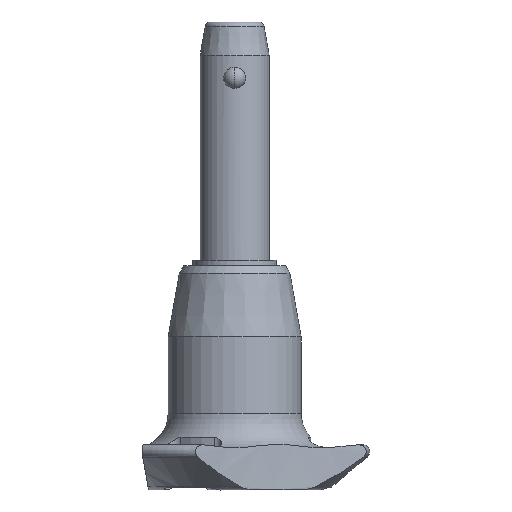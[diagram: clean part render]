
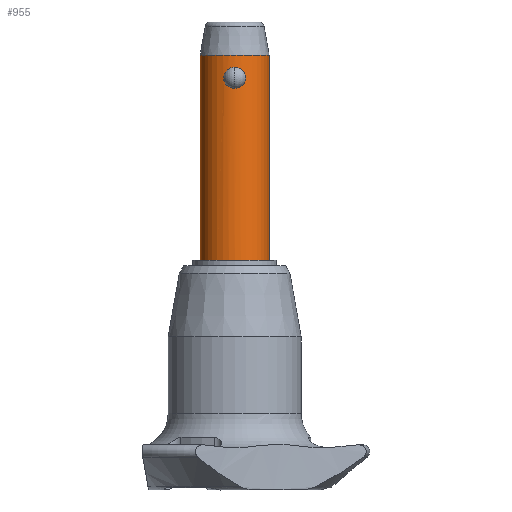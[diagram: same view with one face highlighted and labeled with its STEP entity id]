
A CAD part, front view. The second image highlights one B-rep face of the part: STEP entity #955.
In plain terms, the highlighted cylindrical face has radius 5 mm (diameter 10 mm), a partial arc.
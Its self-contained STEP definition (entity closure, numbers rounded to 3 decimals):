
#4 = CARTESIAN_POINT ( 'NONE',  ( -1.272, -4.838, 0.564 ) ) ;
#10 = ORIENTED_EDGE ( 'NONE', *, *, #2241, .F. ) ;
#32 = CARTESIAN_POINT ( 'NONE',  ( 1.604, -4.736, 1.308 ) ) ;
#50 = CARTESIAN_POINT ( 'NONE',  ( -1.383, -4.805, 2.299 ) ) ;
#62 = CARTESIAN_POINT ( 'NONE',  ( -0.791, -4.938, 2.844 ) ) ;
#82 = CIRCLE ( 'NONE', #300, 5. ) ;
#147 = CARTESIAN_POINT ( 'NONE',  ( 0., -5., 3.033 ) ) ;
#177 = CARTESIAN_POINT ( 'NONE',  ( 0.966, -4.907, 2.738 ) ) ;
#212 = CARTESIAN_POINT ( 'NONE',  ( 0.966, -4.907, 0.296 ) ) ;
#221 = EDGE_CURVE ( 'NONE', #2306, #994, #82, .T. ) ;
#229 = CARTESIAN_POINT ( 'NONE',  ( -1.197, -4.855, 2.539 ) ) ;
#243 = CARTESIAN_POINT ( 'NONE',  ( 1.047, -4.89, 0.356 ) ) ;
#245 = DIRECTION ( 'NONE',  ( 1., 0., 0. ) ) ;
#256 = CARTESIAN_POINT ( 'NONE',  ( -0.966, -4.907, 0.296 ) ) ;
#271 = CARTESIAN_POINT ( 'NONE',  ( -0.699, -4.952, 0.145 ) ) ;
#291 = CARTESIAN_POINT ( 'NONE',  ( 0., 0., -25. ) ) ;
#300 = AXIS2_PLACEMENT_3D ( 'NONE', #1419, #1219, #2053 ) ;
#338 = VERTEX_POINT ( 'NONE', #1275 ) ;
#342 = AXIS2_PLACEMENT_3D ( 'NONE', #704, #1152, #245 ) ;
#366 = CARTESIAN_POINT ( 'NONE',  ( 1.272, -4.838, 2.47 ) ) ;
#389 = VERTEX_POINT ( 'NONE', #1355 ) ;
#419 = CARTESIAN_POINT ( 'NONE',  ( -1.551, -4.753, 1.11 ) ) ;
#433 = CARTESIAN_POINT ( 'NONE',  ( -1.264, -4.838, 2.464 ) ) ;
#435 = FACE_OUTER_BOUND ( 'NONE', #2441, .T. ) ;
#454 = CARTESIAN_POINT ( 'NONE',  ( -1.519, -4.764, 1.013 ) ) ;
#464 = CARTESIAN_POINT ( 'NONE',  ( -1.604, -4.736, 1.416 ) ) ;
#466 = CARTESIAN_POINT ( 'NONE',  ( -5., 0., 4.8 ) ) ;
#479 = CARTESIAN_POINT ( 'NONE',  ( -0.208, -5., 3.033 ) ) ;
#678 = CARTESIAN_POINT ( 'NONE',  ( 0.792, -4.938, 0.19 ) ) ;
#680 = LINE ( 'NONE', #925, #2662 ) ;
#686 = DIRECTION ( 'NONE',  ( 1., 0., 0. ) ) ;
#692 = CARTESIAN_POINT ( 'NONE',  ( 0., -5., 0. ) ) ;
#704 = CARTESIAN_POINT ( 'NONE',  ( 0., 0., -25. ) ) ;
#730 = DIRECTION ( 'NONE',  ( 0., 0., -1. ) ) ;
#792 = CARTESIAN_POINT ( 'NONE',  ( 0.208, -5., 3.033 ) ) ;
#810 = B_SPLINE_CURVE_WITH_KNOTS ( 'NONE', 3,
 ( #692, #2162, #911, #2193, #678, #212, #243, #1109, #1079, #1710, #1948, #2552, #32, #895, #1743, #2587, #1534, #2742, #366, #1253, #177, #1225, #1658, #2729, #792, #147 ),
 .UNSPECIFIED., .F., .F.,
 ( 4, 2, 2, 2, 2, 2, 2, 2, 2, 2, 2, 2, 4 ),
 ( 0.005, 0.006, 0.006, 0.006, 0.006, 0.007, 0.007, 0.008, 0.008, 0.009, 0.009, 0.009, 0.01 ),
 .UNSPECIFIED. ) ;
#840 = VERTEX_POINT ( 'NONE', #2083 ) ;
#865 = CARTESIAN_POINT ( 'NONE',  ( -0.412, -4.987, 0.037 ) ) ;
#878 = CARTESIAN_POINT ( 'NONE',  ( -1.394, -4.802, 0.731 ) ) ;
#895 = CARTESIAN_POINT ( 'NONE',  ( 1.604, -4.736, 1.619 ) ) ;
#911 = CARTESIAN_POINT ( 'NONE',  ( 0.412, -4.987, 0.037 ) ) ;
#919 = DIRECTION ( 'NONE',  ( 0., 0., 1. ) ) ;
#920 = EDGE_CURVE ( 'NONE', #338, #994, #680, .T. ) ;
#925 = CARTESIAN_POINT ( 'NONE',  ( -5., 0., -25. ) ) ;
#955 = ADVANCED_FACE ( 'NONE', ( #435, #1524 ), #1111, .T. ) ;
#994 = VERTEX_POINT ( 'NONE', #466 ) ;
#1079 = CARTESIAN_POINT ( 'NONE',  ( 1.265, -4.838, 0.57 ) ) ;
#1109 = CARTESIAN_POINT ( 'NONE',  ( 1.196, -4.855, 0.493 ) ) ;
#1111 = CYLINDRICAL_SURFACE ( 'NONE', #342, 5. ) ;
#1121 = B_SPLINE_CURVE_WITH_KNOTS ( 'NONE', 3,
 ( #1919, #479, #1505, #2350, #62, #2379, #2602, #229, #433, #50, #2175, #1559, #1344, #464, #1522, #419, #454, #878, #4, #2367, #256, #1765, #271, #865, #1932, #1142 ),
 .UNSPECIFIED., .F., .F.,
 ( 4, 2, 2, 2, 2, 2, 2, 2, 2, 2, 2, 2, 4 ),
 ( 0., 0.001, 0.001, 0.001, 0.002, 0.002, 0.002, 0.003, 0.003, 0.004, 0.004, 0.004, 0.005 ),
 .UNSPECIFIED. ) ;
#1142 = CARTESIAN_POINT ( 'NONE',  ( 0., -5., 0. ) ) ;
#1152 = DIRECTION ( 'NONE',  ( 0., 0., 1. ) ) ;
#1219 = DIRECTION ( 'NONE',  ( 0., 0., -1. ) ) ;
#1225 = CARTESIAN_POINT ( 'NONE',  ( 0.792, -4.938, 2.844 ) ) ;
#1253 = CARTESIAN_POINT ( 'NONE',  ( 1.048, -4.889, 2.676 ) ) ;
#1275 = CARTESIAN_POINT ( 'NONE',  ( -5., 0., -25. ) ) ;
#1280 = CARTESIAN_POINT ( 'NONE',  ( 5., 0., 4.8 ) ) ;
#1330 = LINE ( 'NONE', #1368, #1860 ) ;
#1344 = CARTESIAN_POINT ( 'NONE',  ( -1.604, -4.736, 1.724 ) ) ;
#1355 = CARTESIAN_POINT ( 'NONE',  ( 5., 0., -25. ) ) ;
#1368 = CARTESIAN_POINT ( 'NONE',  ( 5., 0., -25. ) ) ;
#1419 = CARTESIAN_POINT ( 'NONE',  ( 0., 0., 4.8 ) ) ;
#1503 = ORIENTED_EDGE ( 'NONE', *, *, #920, .F. ) ;
#1505 = CARTESIAN_POINT ( 'NONE',  ( -0.412, -4.987, 2.997 ) ) ;
#1522 = CARTESIAN_POINT ( 'NONE',  ( -1.594, -4.739, 1.312 ) ) ;
#1524 = FACE_BOUND ( 'NONE', #2738, .T. ) ;
#1534 = CARTESIAN_POINT ( 'NONE',  ( 1.519, -4.764, 2.021 ) ) ;
#1559 = CARTESIAN_POINT ( 'NONE',  ( -1.56, -4.751, 1.931 ) ) ;
#1658 = CARTESIAN_POINT ( 'NONE',  ( 0.7, -4.952, 2.888 ) ) ;
#1699 = EDGE_CURVE ( 'NONE', #389, #2306, #1330, .T. ) ;
#1710 = CARTESIAN_POINT ( 'NONE',  ( 1.384, -4.805, 0.735 ) ) ;
#1726 = DIRECTION ( 'NONE',  ( 0., 0., 1. ) ) ;
#1739 = CIRCLE ( 'NONE', #2401, 5. ) ;
#1743 = CARTESIAN_POINT ( 'NONE',  ( 1.594, -4.739, 1.721 ) ) ;
#1765 = CARTESIAN_POINT ( 'NONE',  ( -0.792, -4.938, 0.19 ) ) ;
#1823 = ORIENTED_EDGE ( 'NONE', *, *, #2260, .F. ) ;
#1860 = VECTOR ( 'NONE', #919, 1000. ) ;
#1901 = ORIENTED_EDGE ( 'NONE', *, *, #1699, .T. ) ;
#1919 = CARTESIAN_POINT ( 'NONE',  ( 0., -5., 3.033 ) ) ;
#1932 = CARTESIAN_POINT ( 'NONE',  ( -0.205, -5., 0. ) ) ;
#1948 = CARTESIAN_POINT ( 'NONE',  ( 1.434, -4.79, 0.822 ) ) ;
#1991 = VERTEX_POINT ( 'NONE', #2118 ) ;
#2053 = DIRECTION ( 'NONE',  ( 1., 0., 0. ) ) ;
#2083 = CARTESIAN_POINT ( 'NONE',  ( 0., -5., 3.033 ) ) ;
#2118 = CARTESIAN_POINT ( 'NONE',  ( 0., -5., 0. ) ) ;
#2162 = CARTESIAN_POINT ( 'NONE',  ( 0.205, -5., 0. ) ) ;
#2175 = CARTESIAN_POINT ( 'NONE',  ( -1.435, -4.79, 2.209 ) ) ;
#2193 = CARTESIAN_POINT ( 'NONE',  ( 0.699, -4.952, 0.144 ) ) ;
#2241 = EDGE_CURVE ( 'NONE', #840, #1991, #1121, .T. ) ;
#2253 = ORIENTED_EDGE ( 'NONE', *, *, #221, .T. ) ;
#2260 = EDGE_CURVE ( 'NONE', #1991, #840, #810, .T. ) ;
#2306 = VERTEX_POINT ( 'NONE', #1280 ) ;
#2350 = CARTESIAN_POINT ( 'NONE',  ( -0.7, -4.952, 2.888 ) ) ;
#2367 = CARTESIAN_POINT ( 'NONE',  ( -1.047, -4.89, 0.357 ) ) ;
#2379 = CARTESIAN_POINT ( 'NONE',  ( -0.965, -4.907, 2.738 ) ) ;
#2401 = AXIS2_PLACEMENT_3D ( 'NONE', #291, #730, #686 ) ;
#2441 = EDGE_LOOP ( 'NONE', ( #1503, #2555, #1901, #2253 ) ) ;
#2532 = EDGE_CURVE ( 'NONE', #389, #338, #1739, .T. ) ;
#2552 = CARTESIAN_POINT ( 'NONE',  ( 1.56, -4.751, 1.103 ) ) ;
#2555 = ORIENTED_EDGE ( 'NONE', *, *, #2532, .F. ) ;
#2587 = CARTESIAN_POINT ( 'NONE',  ( 1.551, -4.753, 1.922 ) ) ;
#2602 = CARTESIAN_POINT ( 'NONE',  ( -1.047, -4.89, 2.676 ) ) ;
#2662 = VECTOR ( 'NONE', #1726, 1000. ) ;
#2729 = CARTESIAN_POINT ( 'NONE',  ( 0.412, -4.987, 2.996 ) ) ;
#2738 = EDGE_LOOP ( 'NONE', ( #10, #1823 ) ) ;
#2742 = CARTESIAN_POINT ( 'NONE',  ( 1.395, -4.802, 2.301 ) ) ;
